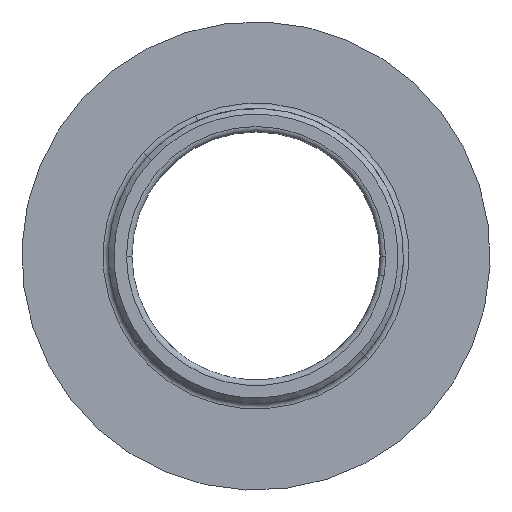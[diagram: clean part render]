
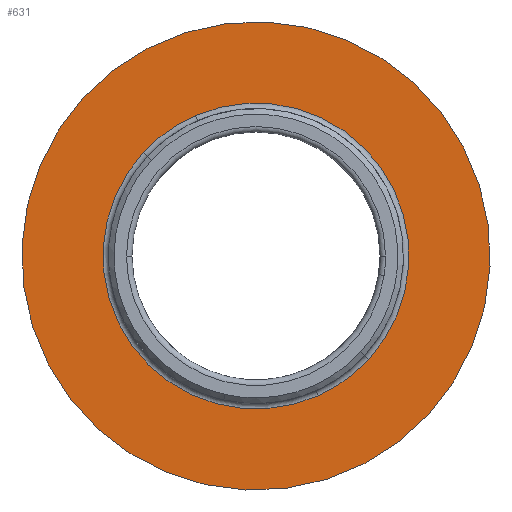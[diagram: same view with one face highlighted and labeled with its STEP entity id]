
A CAD part, front view. The second image highlights one B-rep face of the part: STEP entity #631.
In plain terms, the highlighted planar face has unit normal (0, -1, 0).
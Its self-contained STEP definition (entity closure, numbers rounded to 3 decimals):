
#62=AXIS2_PLACEMENT_3D('Circle Axis2P3D',#60,#61,$) ;
#522=AXIS2_PLACEMENT_3D('Circle Axis2P3D',#520,#521,$) ;
#560=AXIS2_PLACEMENT_3D('Circle Axis2P3D',#558,#559,$) ;
#577=AXIS2_PLACEMENT_3D('Circle Axis2P3D',#575,#576,$) ;
#601=AXIS2_PLACEMENT_3D('Circle Axis2P3D',#599,#600,$) ;
#614=AXIS2_PLACEMENT_3D('Plane Axis2P3D',#611,#612,#613) ;
#618=AXIS2_PLACEMENT_3D('Circle Axis2P3D',#616,#617,$) ;
#43=CARTESIAN_POINT('Vertex',(6.262,-380.805,-76.234)) ;
#57=CARTESIAN_POINT('Vertex',(-6.262,-380.805,-64.739)) ;
#60=CARTESIAN_POINT('Axis2P3D Location',(0.,-380.805,-70.486)) ;
#520=CARTESIAN_POINT('Axis2P3D Location',(0.,-380.805,-70.486)) ;
#524=CARTESIAN_POINT('Vertex',(-4.089,-380.805,-66.734)) ;
#526=CARTESIAN_POINT('Vertex',(-2.193,-380.805,-65.388)) ;
#555=CARTESIAN_POINT('Vertex',(4.089,-380.805,-74.239)) ;
#558=CARTESIAN_POINT('Axis2P3D Location',(0.,-380.805,-70.486)) ;
#575=CARTESIAN_POINT('Axis2P3D Location',(0.,-380.805,-70.486)) ;
#579=CARTESIAN_POINT('Vertex',(2.261,-380.805,-75.555)) ;
#599=CARTESIAN_POINT('Axis2P3D Location',(0.,-380.805,-70.486)) ;
#611=CARTESIAN_POINT('Axis2P3D Location',(0.,-380.805,-70.486)) ;
#616=CARTESIAN_POINT('Axis2P3D Location',(0.,-380.805,-70.486)) ;
#61=DIRECTION('Axis2P3D Direction',(0.,-1.,0.)) ;
#521=DIRECTION('Axis2P3D Direction',(-0.,-1.,0.)) ;
#559=DIRECTION('Axis2P3D Direction',(0.,-1.,0.)) ;
#576=DIRECTION('Axis2P3D Direction',(0.,-1.,0.)) ;
#600=DIRECTION('Axis2P3D Direction',(0.,-1.,0.)) ;
#612=DIRECTION('Axis2P3D Direction',(0.,-1.,0.)) ;
#613=DIRECTION('Axis2P3D XDirection',(0.737,0.,-0.676)) ;
#617=DIRECTION('Axis2P3D Direction',(0.,-1.,0.)) ;
#622=ORIENTED_EDGE('',*,*,#64,.T.) ;
#623=ORIENTED_EDGE('',*,*,#620,.T.) ;
#626=ORIENTED_EDGE('',*,*,#528,.T.) ;
#627=ORIENTED_EDGE('',*,*,#562,.T.) ;
#628=ORIENTED_EDGE('',*,*,#581,.T.) ;
#629=ORIENTED_EDGE('',*,*,#603,.T.) ;
#630=FACE_BOUND('',#625,.T.) ;
#631=ADVANCED_FACE('\X2\987690E85BC65C01652F64915708\X0\.1\\\X2\96F64EF651E04F554F53\X0\',(#624,#630),#615,.T.) ;
#63=CIRCLE('generated circle',#62,8.5) ;
#523=CIRCLE('generated circle',#522,5.55) ;
#561=CIRCLE('generated circle',#560,5.55) ;
#578=CIRCLE('generated circle',#577,5.55) ;
#602=CIRCLE('generated circle',#601,5.55) ;
#619=CIRCLE('generated circle',#618,8.5) ;
#64=EDGE_CURVE('',#44,#58,#63,.T.) ;
#528=EDGE_CURVE('',#525,#527,#523,.F.) ;
#562=EDGE_CURVE('',#527,#556,#561,.F.) ;
#581=EDGE_CURVE('',#556,#580,#578,.F.) ;
#603=EDGE_CURVE('',#580,#525,#602,.F.) ;
#620=EDGE_CURVE('',#58,#44,#619,.T.) ;
#621=EDGE_LOOP('',(#622,#623)) ;
#625=EDGE_LOOP('',(#626,#627,#628,#629)) ;
#624=FACE_OUTER_BOUND('',#621,.T.) ;
#615=PLANE('Plane',#614) ;
#44=VERTEX_POINT('',#43) ;
#58=VERTEX_POINT('',#57) ;
#525=VERTEX_POINT('',#524) ;
#527=VERTEX_POINT('',#526) ;
#556=VERTEX_POINT('',#555) ;
#580=VERTEX_POINT('',#579) ;
